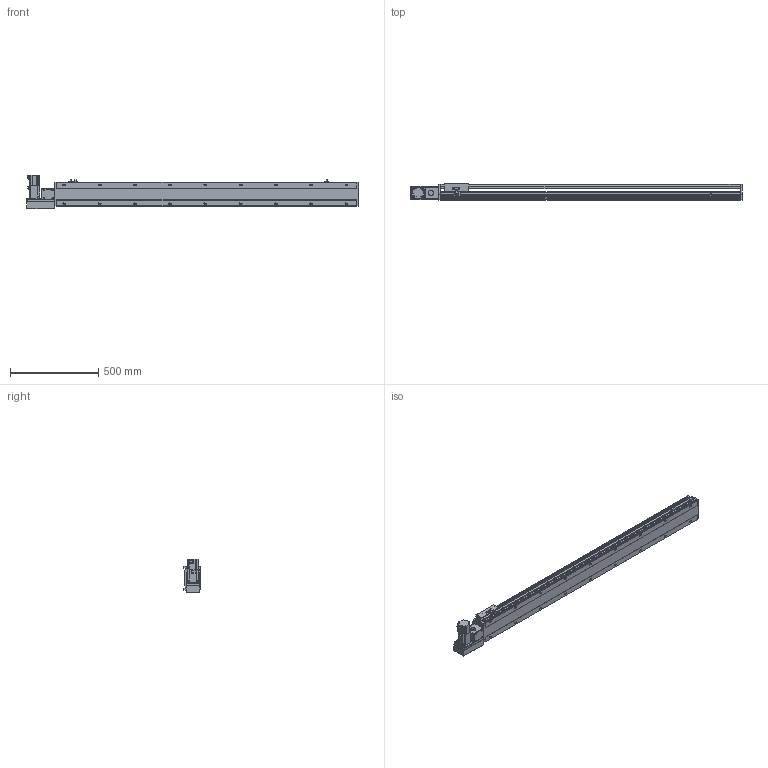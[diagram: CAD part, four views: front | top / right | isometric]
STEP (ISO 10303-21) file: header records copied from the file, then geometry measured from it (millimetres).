
FILE_DESCRIPTION( ( 'STEP AP214' ), '1' );
FILE_NAME( 'x:/temp/worker_6/temp/exporttempdir_5396_18_hKs4g/format_0/PBS140S-P40-S1450-L-T40-C1-N(0).stp', '2022-06-09T00:02:09', ( 'License CC BY-ND 4.0' ), ( 'CADENAS' ), ' ', 'PARTsolutions', ' ' );
FILE_SCHEMA( ( 'AUTOMOTIVE_DESIGN { 1 0 10303 214 1 1 1 1 }' ) );
Length unit declared in the file: millimetre
Products named in the file (7): PBS140S-P40-S1450-L-T40-C1-N(0); _PBS140S-S1450()_body; _PBS140ST-L_motors; _T40-p1; _PBS140S_sliser; _PBS140S_plant; _PBS140S_sensor
Assembly tree (8 placements, depth 2):
  PBS140S-P40-S1450-L-T40-C1-N(0)
    _PBS140S-S1450()_body
    _PBS140ST-L_motors
    _T40-p1
    _PBS140S_sliser
    _PBS140S_plant
    _PBS140S_sensor  x3
Bounding box: 1883 x 93 x 189.7 mm (x, y, z)
Volume: 9090074.9 mm3; surface area: 1553830.8 mm2
Topology: 8 solids, 8 shells, 1115 faces, 2951 edges, 1931 vertices
Faces by surface type: plane 708, cylinder 353, cone 44, sphere 8, torus 2
Full cylindrical faces by diameter (mm): 3.242 x4, 4 x2, 4.134 x4, 4.4 x8, 4.5 x2, 4.8 x4, 4.917 x26, 5.5 x7, 6 x2, 7 x20, 7.5 x8, 8 x12, 8.5 x4, 10.5 x18, 14 x1, 30 x2, 50 x2
Entity records: 40978 total; most frequent: CARTESIAN_POINT 6574, DIRECTION 5418, ORIENTED_EDGE 5122, EDGE_CURVE 2561, AXIS2_PLACEMENT_3D 1889, VERTEX_POINT 1777, LINE 1640, VECTOR 1640
